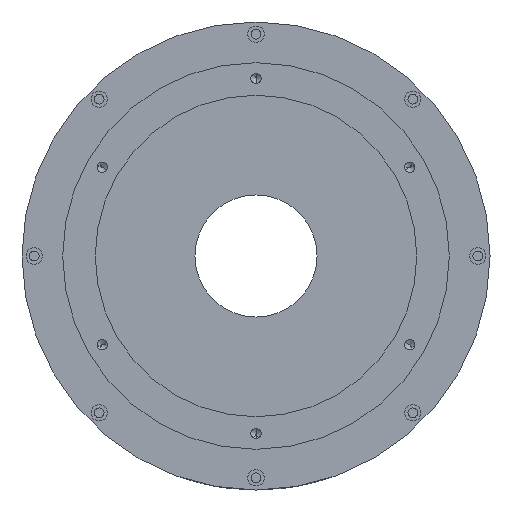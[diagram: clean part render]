
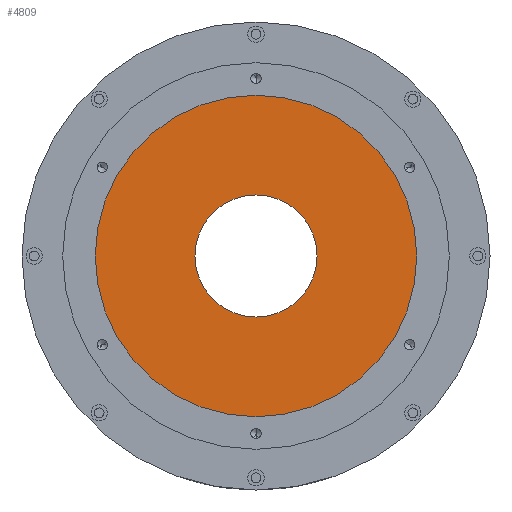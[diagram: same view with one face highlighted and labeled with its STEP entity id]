
A CAD part, front view. The second image highlights one B-rep face of the part: STEP entity #4809.
In plain terms, the highlighted planar face has unit normal (0, -1, 0).
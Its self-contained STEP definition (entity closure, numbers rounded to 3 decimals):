
#1579=CARTESIAN_POINT('',(0.,-38.25,0.));
#1580=DIRECTION('',(0.,-1.,0.));
#1581=DIRECTION('',(0.,0.,-1.));
#1582=AXIS2_PLACEMENT_3D('',#1579,#1580,#1581);
#1584=CARTESIAN_POINT('',(0.,-38.25,0.));
#1585=DIRECTION('',(0.,-1.,0.));
#1586=DIRECTION('',(0.,0.,1.));
#1587=AXIS2_PLACEMENT_3D('',#1584,#1585,#1586);
#1589=CARTESIAN_POINT('',(0.,-38.25,0.));
#1590=DIRECTION('',(0.,1.,0.));
#1591=DIRECTION('',(0.,0.,-1.));
#1592=AXIS2_PLACEMENT_3D('',#1589,#1590,#1591);
#1594=CARTESIAN_POINT('',(0.,-38.25,0.));
#1595=DIRECTION('',(0.,1.,0.));
#1596=DIRECTION('',(0.,0.,1.));
#1597=AXIS2_PLACEMENT_3D('',#1594,#1595,#1596);
#2422=CARTESIAN_POINT('',(0.,-38.25,-79.));
#2423=CARTESIAN_POINT('',(0.,-38.25,79.));
#2424=VERTEX_POINT('',#2422);
#2425=VERTEX_POINT('',#2423);
#2426=CARTESIAN_POINT('',(0.,-38.25,30.));
#2427=CARTESIAN_POINT('',(0.,-38.25,-30.));
#2428=VERTEX_POINT('',#2426);
#2429=VERTEX_POINT('',#2427);
#4794=CARTESIAN_POINT('',(0.,-38.25,0.));
#4795=DIRECTION('',(0.,-1.,0.));
#4796=DIRECTION('',(0.,0.,-1.));
#4797=AXIS2_PLACEMENT_3D('',#4794,#4795,#4796);
#4798=PLANE('',#4797);
#4799=ORIENTED_EDGE('',*,*,#4776,.F.);
#4800=ORIENTED_EDGE('',*,*,#4786,.F.);
#4801=EDGE_LOOP('',(#4799,#4800));
#4802=FACE_OUTER_BOUND('',#4801,.F.);
#4804=ORIENTED_EDGE('',*,*,#4803,.F.);
#4806=ORIENTED_EDGE('',*,*,#4805,.F.);
#4807=EDGE_LOOP('',(#4804,#4806));
#4808=FACE_BOUND('',#4807,.F.);
#4809=ADVANCED_FACE('',(#4802,#4808),#4798,.T.);
#1583=CIRCLE('',#1582,79.);
#1588=CIRCLE('',#1587,79.);
#1593=CIRCLE('',#1592,30.);
#1598=CIRCLE('',#1597,30.);
#4776=EDGE_CURVE('',#2424,#2425,#1583,.T.);
#4786=EDGE_CURVE('',#2425,#2424,#1588,.T.);
#4803=EDGE_CURVE('',#2429,#2428,#1593,.T.);
#4805=EDGE_CURVE('',#2428,#2429,#1598,.T.);
